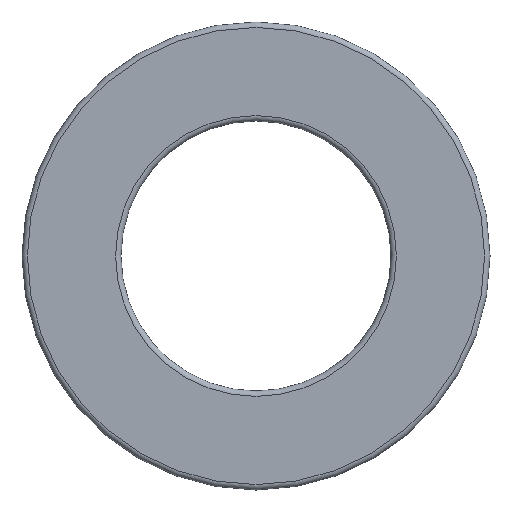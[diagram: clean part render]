
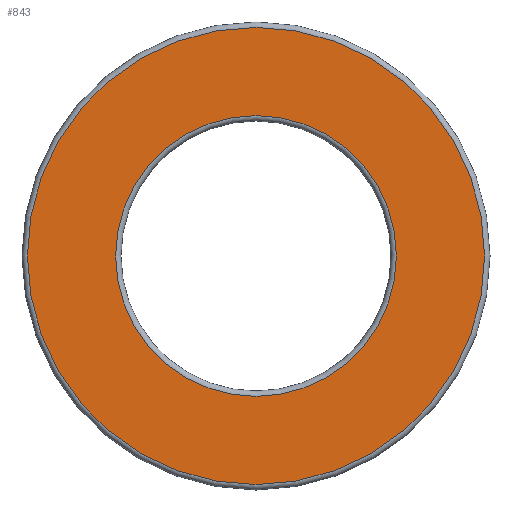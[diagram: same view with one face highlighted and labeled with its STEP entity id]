
A CAD part, front view. The second image highlights one B-rep face of the part: STEP entity #843.
In plain terms, the highlighted planar face has unit normal (0, -1, 0).
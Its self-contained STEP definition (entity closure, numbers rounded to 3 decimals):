
#116=PLANE('',#919);
#147=FACE_BOUND('',#308,.T.);
#239=FACE_OUTER_BOUND('',#307,.T.);
#307=EDGE_LOOP('',(#692));
#308=EDGE_LOOP('',(#693));
#454=CIRCLE('',#918,25.4);
#455=CIRCLE('',#920,15.6);
#531=VERTEX_POINT('',#1400);
#532=VERTEX_POINT('',#1403);
#609=EDGE_CURVE('',#531,#531,#454,.T.);
#610=EDGE_CURVE('',#532,#532,#455,.T.);
#692=ORIENTED_EDGE('',*,*,#609,.F.);
#693=ORIENTED_EDGE('',*,*,#610,.F.);
#843=ADVANCED_FACE('',(#239,#147),#116,.T.);
#918=AXIS2_PLACEMENT_3D('',#1401,#1092,#1093);
#919=AXIS2_PLACEMENT_3D('',#1402,#1094,#1095);
#920=AXIS2_PLACEMENT_3D('',#1404,#1096,#1097);
#1092=DIRECTION('center_axis',(0.,1.,0.));
#1093=DIRECTION('ref_axis',(-1.,0.,0.));
#1094=DIRECTION('center_axis',(0.,-1.,0.));
#1095=DIRECTION('ref_axis',(0.,0.,-1.));
#1096=DIRECTION('center_axis',(0.,-1.,0.));
#1097=DIRECTION('ref_axis',(-1.,0.,0.));
#1400=CARTESIAN_POINT('',(25.4,-8.,0.));
#1401=CARTESIAN_POINT('Origin',(0.,-8.,0.));
#1402=CARTESIAN_POINT('Origin',(15.,-8.,0.));
#1403=CARTESIAN_POINT('',(15.6,-8.,0.));
#1404=CARTESIAN_POINT('Origin',(0.,-8.,0.));
